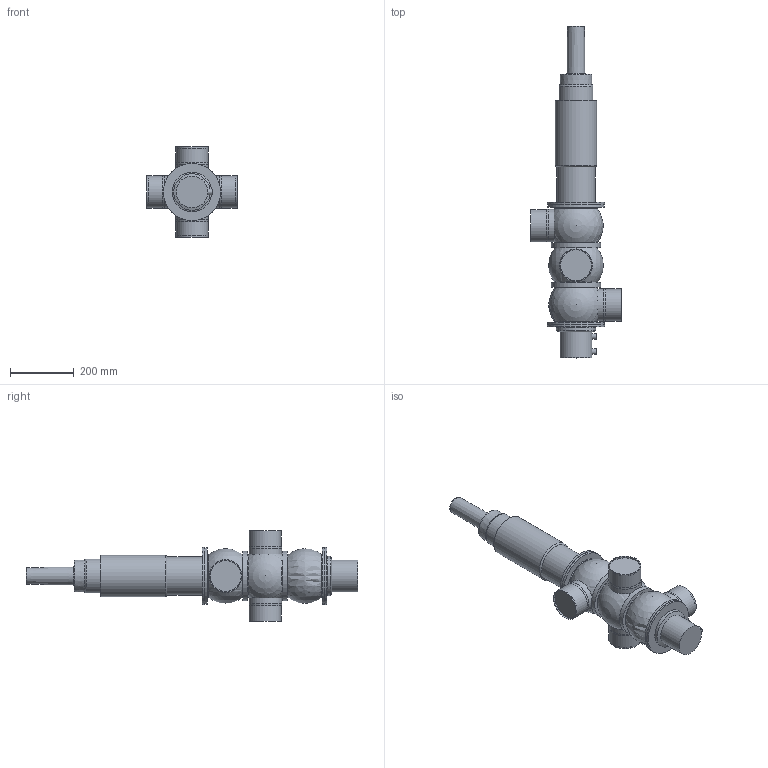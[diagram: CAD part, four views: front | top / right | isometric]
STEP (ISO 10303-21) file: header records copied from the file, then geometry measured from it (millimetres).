
FILE_DESCRIPTION(/* description */ ('Creo Elements/Direct Modeling STEP Export'),/* implementation_level */ '2;1');
FILE_NAME(/* name */ 'O:\Benutzer\Trimpop\DU4 SL\Makros\DU4 SL_VSM_stp\DU47(1-6-8-11)-4inch SL_VSM.stp',/* time_stamp */ '2021-10-04T13:44:19+02:00',/* author */ ('KERAMN'),/* organization */ (''),/* preprocessor_version */ 'ST-DEVELOPER v18.1',/* originating_system */ 'Autodesk Inventor 2020',/* authorisation */ '');
FILE_SCHEMA (('AUTOMOTIVE_DESIGN { 1 0 10303 214 3 1 1 }'));
Length unit declared in the file: millimetre
Products named in the file (6): DU47(1-6-8-11)-4inch SL_VSM; actuator_D4SL-125_yoke; DU47-4T(1-6-8-11)_Shrinkwrap_1; lid housing DU4-92 simplified; drain_pipe_92; D4_Prox._holder
Assembly tree (5 placements, depth 2):
  DU47(1-6-8-11)-4inch SL_VSM
    actuator_D4SL-125_yoke
    DU47-4T(1-6-8-11)_Shrinkwrap_1
    lid housing DU4-92 simplified
    drain_pipe_92
    D4_Prox._holder
Bounding box: 285 x 1045.5 x 285 mm (x, y, z)
Volume: 16102703 mm3; surface area: 767473.7 mm2
Topology: 5 solids, 5 shells, 100 faces, 224 edges, 167 vertices
Faces by surface type: plane 44, cylinder 36, torus 8, cone 4, bspline 4, sphere 4
Full cylindrical faces by diameter (mm): 18 x2, 60 x1, 68 x1, 97.6 x4, 100 x1, 101.6 x4, 102.6 x4, 107 x1, 112.9 x1, 115 x1, 115.1 x1, 121 x1, 124 x1, 131 x1, 133 x3, 136.8 x3, 156 x2, 180 x4
Entity records: 3610 total; most frequent: CARTESIAN_POINT 977, DIRECTION 602, ORIENTED_EDGE 436, AXIS2_PLACEMENT_3D 281, EDGE_CURVE 218, CIRCLE 173, VERTEX_POINT 167, EDGE_LOOP 139
